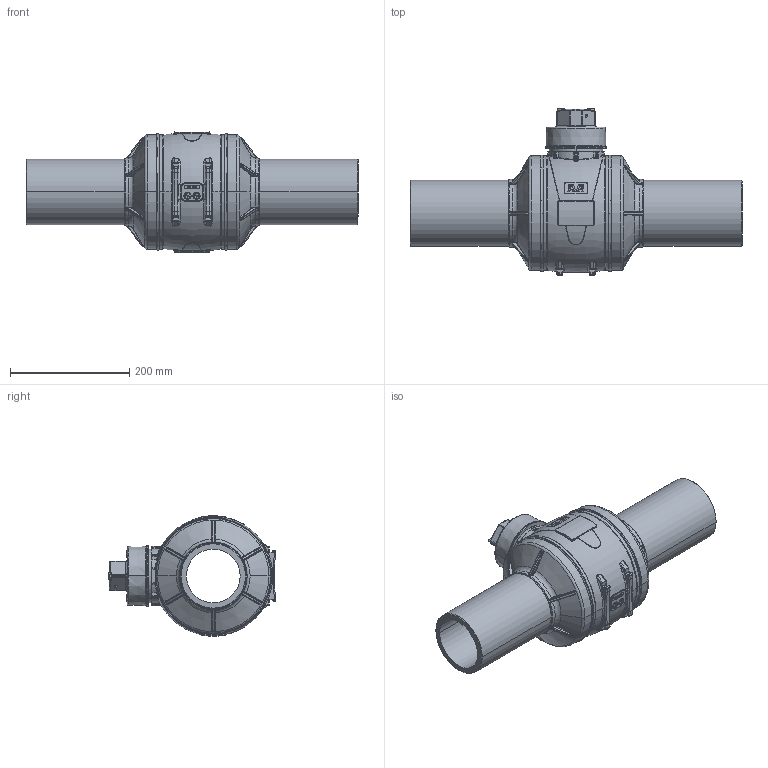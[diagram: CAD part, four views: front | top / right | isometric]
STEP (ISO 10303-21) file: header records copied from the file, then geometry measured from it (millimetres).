
FILE_DESCRIPTION (( 'STEP AP203' ), '1' );
FILE_NAME ('SOLID CERTUS VALVE PE BALL VALVE UNI DN100-OD110.STEP', '2019-06-03T13:08:13', ( 'Beheer' ), ( '' ), 'SwSTEP 2.0', 'SolidWorks 2012', '' );
FILE_SCHEMA (( 'CONFIG_CONTROL_DESIGN' ));
Length unit declared in the file: millimetre
Products named in the file (1): SOLID CERTUS VALVE PE BALL VALVE UNI DN100-OD110
Bounding box: 556.3 x 279.25 x 201.82 mm (x, y, z)
Volume: 5817854.6 mm3; surface area: 463588.6 mm2
Topology: 1 solids, 1 shells, 2346 faces, 5622 edges, 3247 vertices
Faces by surface type: bspline 794, cylinder 579, plane 483, torus 307, sphere 145, cone 38
Entity records: 96517 total; most frequent: CARTESIAN_POINT 47631, ORIENTED_EDGE 11042, DIRECTION 9096, EDGE_CURVE 5521, AXIS2_PLACEMENT_3D 3618, VERTEX_POINT 3247, EDGE_LOOP 2422, FACE_OUTER_BOUND 2346
